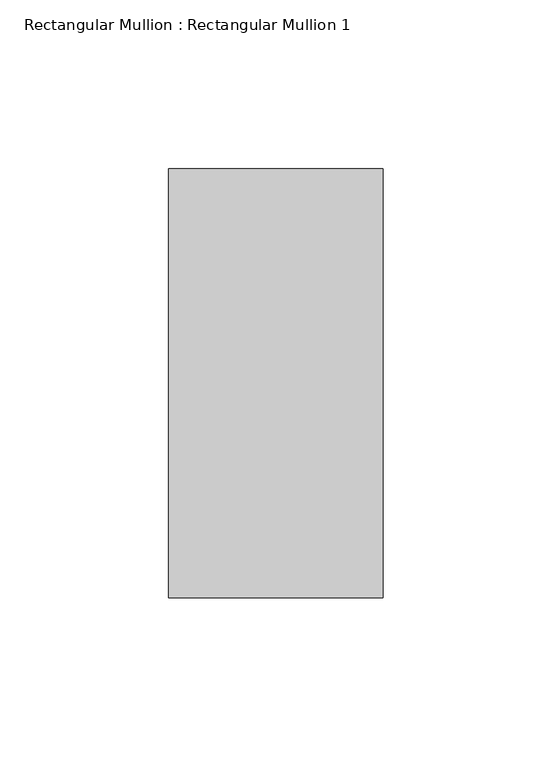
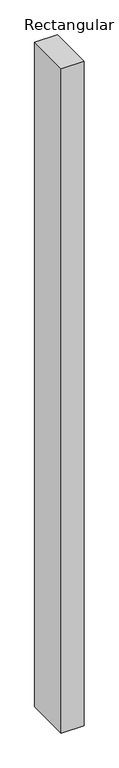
"""IFC4 building model written with IfcOpenShell, lengths in millimetres: member geometry, Rectangular Mullion : Rectangular Mullion 1."""

from ifc_helpers import new_model, si_unit, frame, origin, place, context, project, spatial, polyline, outline, extrude, source, transform, mapped, element, save


def rectangular_mullion_rectangular_mullion_1_c8f1c27a(model_context):
    return source(origin(), model_context, "Body", "SweptSolid", [
        extrude(outline(polyline([(0.0, 63.5), (0.0, -63.5), (-63.5, -63.5), (-63.5, 63.5), (0.0, 63.5)])), frame((0.0, 0.0, -1948.2242938), z_axis=(0.0, 0.0, 1.0), x_axis=(1.0, 0.0, 0.0)), (0.0, 0.0, 1.0), 1948.2242938),
    ])


if __name__ == "__main__":
    model = new_model("IFC4")
    model_context = context("Model", 3, world=origin())
    ifc_project = project(units=[si_unit("LENGTHUNIT", "METRE", prefix="MILLI")], contexts=[model_context])
    site = spatial("IfcSite", under=ifc_project)
    building = spatial("IfcBuilding", under=site)
    placement = place(None, origin())
    rectangular_mullion_rectangular_mullion_1_shape = rectangular_mullion_rectangular_mullion_1_c8f1c27a(model_context)
    element("IfcMember", 1, ObjectType="Rectangular Mullion : Rectangular Mullion 1", at=placement, inside=building, context=model_context, shape_type="MappedRepresentation", body=[
        mapped(rectangular_mullion_rectangular_mullion_1_shape, transform((0.0, 0.0, 0.0), x_axis=(1.0, 0.0, 0.0), y_axis=(0.0, 1.0, 0.0), z_axis=(0.0, 0.0, 1.0))),
    ])
    save(model, "model.ifc")
